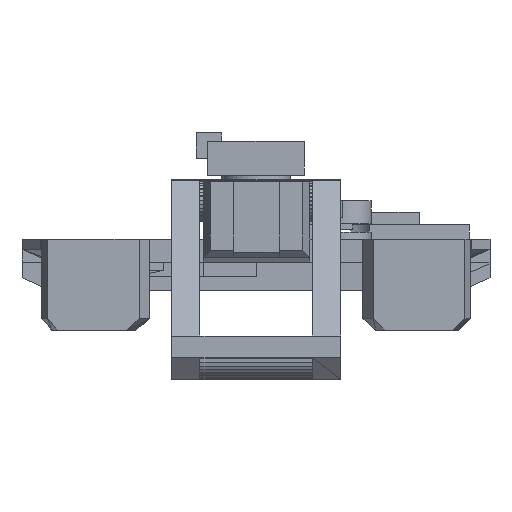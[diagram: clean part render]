
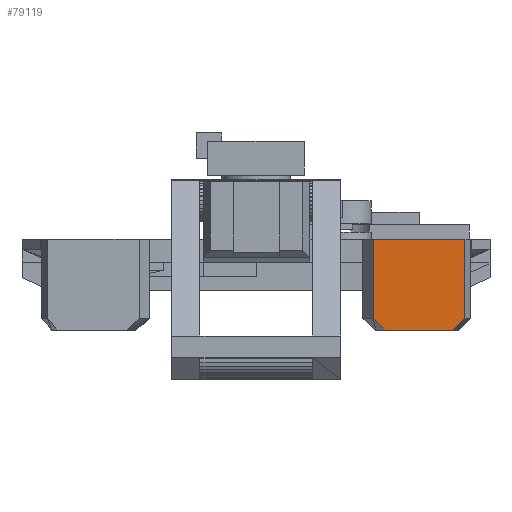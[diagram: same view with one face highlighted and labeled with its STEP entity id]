
A CAD part, left-side view. The second image highlights one B-rep face of the part: STEP entity #79119.
In plain terms, the highlighted planar face has unit normal (-1, 0, 0).
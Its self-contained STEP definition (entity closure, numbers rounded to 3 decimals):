
#66 = PLANE('',#67);
#67 = AXIS2_PLACEMENT_3D('',#68,#69,#70);
#68 = CARTESIAN_POINT('',(-40.,-25.,6.4));
#69 = DIRECTION('',(0.,0.,1.));
#70 = DIRECTION('',(1.,0.,-0.));
#204 = VERTEX_POINT('',#205);
#205 = CARTESIAN_POINT('',(-18.527,-8.261,6.4));
#219 = PLANE('',#220);
#220 = AXIS2_PLACEMENT_3D('',#221,#222,#223);
#221 = CARTESIAN_POINT('',(-18.227,-8.058,9.931
    ));
#222 = DIRECTION('',(-0.56,0.829,0.));
#223 = DIRECTION('',(0.829,0.56,0.));
#231 = EDGE_CURVE('',#232,#204,#234,.T.);
#232 = VERTEX_POINT('',#233);
#233 = CARTESIAN_POINT('',(-18.527,-14.707,6.4));
#234 = SURFACE_CURVE('',#235,(#239,#246),.PCURVE_S1.);
#235 = LINE('',#236,#237);
#236 = CARTESIAN_POINT('',(-18.527,-19.765,6.4));
#237 = VECTOR('',#238,1.);
#238 = DIRECTION('',(0.,1.,0.));
#239 = PCURVE('',#66,#240);
#240 = DEFINITIONAL_REPRESENTATION('',(#241),#245);
#241 = LINE('',#242,#243);
#242 = CARTESIAN_POINT('',(21.473,5.235));
#243 = VECTOR('',#244,1.);
#244 = DIRECTION('',(0.,1.));
#245 = ( GEOMETRIC_REPRESENTATION_CONTEXT(2) 
PARAMETRIC_REPRESENTATION_CONTEXT() REPRESENTATION_CONTEXT('2D SPACE',''
  ) );
#246 = PCURVE('',#247,#252);
#247 = PLANE('',#248);
#248 = AXIS2_PLACEMENT_3D('',#249,#250,#251);
#249 = CARTESIAN_POINT('',(-18.527,-14.531,
    10.066));
#250 = DIRECTION('',(-1.,-0.,-0.));
#251 = DIRECTION('',(0.,0.,-1.));
#252 = DEFINITIONAL_REPRESENTATION('',(#253),#257);
#253 = LINE('',#254,#255);
#254 = CARTESIAN_POINT('',(3.666,5.235));
#255 = VECTOR('',#256,1.);
#256 = DIRECTION('',(0.,-1.));
#257 = ( GEOMETRIC_REPRESENTATION_CONTEXT(2) 
PARAMETRIC_REPRESENTATION_CONTEXT() REPRESENTATION_CONTEXT('2D SPACE',''
  ) );
#275 = PLANE('',#276);
#276 = AXIS2_PLACEMENT_3D('',#277,#278,#279);
#277 = CARTESIAN_POINT('',(-18.23,-14.82,
    10.487));
#278 = DIRECTION('',(-0.355,-0.935,-0.));
#279 = DIRECTION('',(-0.935,0.355,0.));
#29921 = PLANE('',#29922);
#29922 = AXIS2_PLACEMENT_3D('',#29923,#29924,#29925);
#29923 = CARTESIAN_POINT('',(-16.37,-9.793,0.));
#29924 = DIRECTION('',(-0.,-0.,-1.));
#29925 = DIRECTION('',(-1.,0.,0.));
#30096 = VERTEX_POINT('',#30097);
#30097 = CARTESIAN_POINT('',(-18.527,-8.261,
    0.778));
#30133 = PLANE('',#30134);
#30134 = AXIS2_PLACEMENT_3D('',#30135,#30136,#30137);
#30135 = CARTESIAN_POINT('',(-18.148,-8.584,
    0.257));
#30136 = DIRECTION('',(-0.384,0.633,-0.672));
#30137 = DIRECTION('',(0.,-0.728,
    -0.686));
#30150 = VERTEX_POINT('',#30151);
#30151 = CARTESIAN_POINT('',(-18.527,-9.087,0.));
#30172 = EDGE_CURVE('',#30096,#30150,#30173,.T.);
#30173 = SURFACE_CURVE('',#30174,(#30178,#30185),.PCURVE_S1.);
#30174 = LINE('',#30175,#30176);
#30175 = CARTESIAN_POINT('',(-18.527,-8.261,
    0.778));
#30176 = VECTOR('',#30177,1.);
#30177 = DIRECTION('',(0.,-0.728,-0.686));
#30178 = PCURVE('',#30133,#30179);
#30179 = DEFINITIONAL_REPRESENTATION('',(#30180),#30184);
#30180 = LINE('',#30181,#30182);
#30181 = CARTESIAN_POINT('',(-0.592,0.41));
#30182 = VECTOR('',#30183,1.);
#30183 = DIRECTION('',(1.,0.));
#30184 = ( GEOMETRIC_REPRESENTATION_CONTEXT(2) 
PARAMETRIC_REPRESENTATION_CONTEXT() REPRESENTATION_CONTEXT('2D SPACE',''
  ) );
#30185 = PCURVE('',#247,#30186);
#30186 = DEFINITIONAL_REPRESENTATION('',(#30187),#30191);
#30187 = LINE('',#30188,#30189);
#30188 = CARTESIAN_POINT('',(9.288,-6.27));
#30189 = VECTOR('',#30190,1.);
#30190 = DIRECTION('',(0.686,0.728));
#30191 = ( GEOMETRIC_REPRESENTATION_CONTEXT(2) 
PARAMETRIC_REPRESENTATION_CONTEXT() REPRESENTATION_CONTEXT('2D SPACE',''
  ) );
#30305 = VERTEX_POINT('',#30306);
#30306 = CARTESIAN_POINT('',(-18.527,-13.847,0.));
#30332 = EDGE_CURVE('',#30305,#30150,#30333,.T.);
#30333 = SURFACE_CURVE('',#30334,(#30338,#30345),.PCURVE_S1.);
#30334 = LINE('',#30335,#30336);
#30335 = CARTESIAN_POINT('',(-18.527,-13.847,0.));
#30336 = VECTOR('',#30337,1.);
#30337 = DIRECTION('',(0.,1.,0.));
#30338 = PCURVE('',#29921,#30339);
#30339 = DEFINITIONAL_REPRESENTATION('',(#30340),#30344);
#30340 = LINE('',#30341,#30342);
#30341 = CARTESIAN_POINT('',(2.157,-4.054));
#30342 = VECTOR('',#30343,1.);
#30343 = DIRECTION('',(0.,1.));
#30344 = ( GEOMETRIC_REPRESENTATION_CONTEXT(2) 
PARAMETRIC_REPRESENTATION_CONTEXT() REPRESENTATION_CONTEXT('2D SPACE',''
  ) );
#30345 = PCURVE('',#247,#30346);
#30346 = DEFINITIONAL_REPRESENTATION('',(#30347),#30351);
#30347 = LINE('',#30348,#30349);
#30348 = CARTESIAN_POINT('',(10.066,-0.684));
#30349 = VECTOR('',#30350,1.);
#30350 = DIRECTION('',(0.,-1.));
#30351 = ( GEOMETRIC_REPRESENTATION_CONTEXT(2) 
PARAMETRIC_REPRESENTATION_CONTEXT() REPRESENTATION_CONTEXT('2D SPACE',''
  ) );
#30401 = PLANE('',#30402);
#30402 = AXIS2_PLACEMENT_3D('',#30403,#30404,#30405);
#30403 = CARTESIAN_POINT('',(-18.135,-14.546,
    0.497));
#30404 = DIRECTION('',(-0.247,-0.65,-0.719)
  );
#30405 = DIRECTION('',(0.,-0.742,
    0.671));
#30418 = VERTEX_POINT('',#30419);
#30419 = CARTESIAN_POINT('',(-18.527,-14.707,
    0.778));
#30440 = EDGE_CURVE('',#30305,#30418,#30441,.T.);
#30441 = SURFACE_CURVE('',#30442,(#30446,#30453),.PCURVE_S1.);
#30442 = LINE('',#30443,#30444);
#30443 = CARTESIAN_POINT('',(-18.527,-13.847,0.));
#30444 = VECTOR('',#30445,1.);
#30445 = DIRECTION('',(0.,-0.742,0.671));
#30446 = PCURVE('',#30401,#30447);
#30447 = DEFINITIONAL_REPRESENTATION('',(#30448),#30452);
#30448 = LINE('',#30449,#30450);
#30449 = CARTESIAN_POINT('',(-0.852,0.404));
#30450 = VECTOR('',#30451,1.);
#30451 = DIRECTION('',(1.,0.));
#30452 = ( GEOMETRIC_REPRESENTATION_CONTEXT(2) 
PARAMETRIC_REPRESENTATION_CONTEXT() REPRESENTATION_CONTEXT('2D SPACE',''
  ) );
#30453 = PCURVE('',#247,#30454);
#30454 = DEFINITIONAL_REPRESENTATION('',(#30455),#30459);
#30455 = LINE('',#30456,#30457);
#30456 = CARTESIAN_POINT('',(10.066,-0.684));
#30457 = VECTOR('',#30458,1.);
#30458 = DIRECTION('',(-0.671,0.742));
#30459 = ( GEOMETRIC_REPRESENTATION_CONTEXT(2) 
PARAMETRIC_REPRESENTATION_CONTEXT() REPRESENTATION_CONTEXT('2D SPACE',''
  ) );
#79096 = EDGE_CURVE('',#204,#30096,#79097,.T.);
#79097 = SURFACE_CURVE('',#79098,(#79102,#79109),.PCURVE_S1.);
#79098 = LINE('',#79099,#79100);
#79099 = CARTESIAN_POINT('',(-18.527,-8.261,
    13.284));
#79100 = VECTOR('',#79101,1.);
#79101 = DIRECTION('',(0.,0.,-1.));
#79102 = PCURVE('',#219,#79103);
#79103 = DEFINITIONAL_REPRESENTATION('',(#79104),#79108);
#79104 = LINE('',#79105,#79106);
#79105 = CARTESIAN_POINT('',(-0.362,-3.353));
#79106 = VECTOR('',#79107,1.);
#79107 = DIRECTION('',(0.,1.));
#79108 = ( GEOMETRIC_REPRESENTATION_CONTEXT(2) 
PARAMETRIC_REPRESENTATION_CONTEXT() REPRESENTATION_CONTEXT('2D SPACE',''
  ) );
#79109 = PCURVE('',#247,#79110);
#79110 = DEFINITIONAL_REPRESENTATION('',(#79111),#79115);
#79111 = LINE('',#79112,#79113);
#79112 = CARTESIAN_POINT('',(-3.218,-6.27));
#79113 = VECTOR('',#79114,1.);
#79114 = DIRECTION('',(1.,0.));
#79115 = ( GEOMETRIC_REPRESENTATION_CONTEXT(2) 
PARAMETRIC_REPRESENTATION_CONTEXT() REPRESENTATION_CONTEXT('2D SPACE',''
  ) );
#79119 = ADVANCED_FACE('',(#79120),#247,.T.);
#79120 = FACE_BOUND('',#79121,.T.);
#79121 = EDGE_LOOP('',(#79122,#79143,#79144,#79145,#79146,#79147));
#79122 = ORIENTED_EDGE('',*,*,#79123,.F.);
#79123 = EDGE_CURVE('',#232,#30418,#79124,.T.);
#79124 = SURFACE_CURVE('',#79125,(#79129,#79136),.PCURVE_S1.);
#79125 = LINE('',#79126,#79127);
#79126 = CARTESIAN_POINT('',(-18.527,-14.707,
    13.284));
#79127 = VECTOR('',#79128,1.);
#79128 = DIRECTION('',(0.,0.,-1.));
#79129 = PCURVE('',#247,#79130);
#79130 = DEFINITIONAL_REPRESENTATION('',(#79131),#79135);
#79131 = LINE('',#79132,#79133);
#79132 = CARTESIAN_POINT('',(-3.218,0.176));
#79133 = VECTOR('',#79134,1.);
#79134 = DIRECTION('',(1.,0.));
#79135 = ( GEOMETRIC_REPRESENTATION_CONTEXT(2) 
PARAMETRIC_REPRESENTATION_CONTEXT() REPRESENTATION_CONTEXT('2D SPACE',''
  ) );
#79136 = PCURVE('',#275,#79137);
#79137 = DEFINITIONAL_REPRESENTATION('',(#79138),#79142);
#79138 = LINE('',#79139,#79140);
#79139 = CARTESIAN_POINT('',(0.318,-2.797));
#79140 = VECTOR('',#79141,1.);
#79141 = DIRECTION('',(0.,1.));
#79142 = ( GEOMETRIC_REPRESENTATION_CONTEXT(2) 
PARAMETRIC_REPRESENTATION_CONTEXT() REPRESENTATION_CONTEXT('2D SPACE',''
  ) );
#79143 = ORIENTED_EDGE('',*,*,#231,.T.);
#79144 = ORIENTED_EDGE('',*,*,#79096,.T.);
#79145 = ORIENTED_EDGE('',*,*,#30172,.T.);
#79146 = ORIENTED_EDGE('',*,*,#30332,.F.);
#79147 = ORIENTED_EDGE('',*,*,#30440,.T.);
